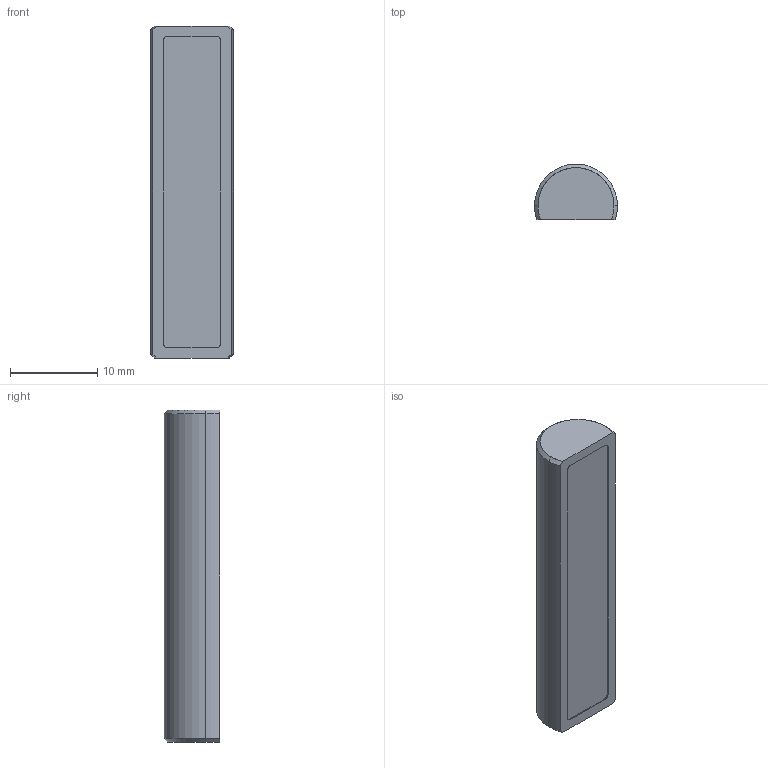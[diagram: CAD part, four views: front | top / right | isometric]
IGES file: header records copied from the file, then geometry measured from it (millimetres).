
Start section: SolidWorks IGES file using analytic representation for surfaces
Global section: file name: D:\Solid_parts\MECHeDESIGN\Bal-Tec\Catalog 105-A\Distribution\IGES\375-TCR.IGS; native system: SolidWorks 2005 by SolidWorks Corporation; preprocessor: SolidWorks 2005 by SolidWorks Corporation; author: rvillegas; date: 061205.183951; units: inch
Bounding box: 9.53 x 6.35 x 38.1 mm (x, y, z)
Surface area: 1137.9 mm2 (no closed solid volume)
Topology: 0 solids, 0 shells, 21 faces, 158 edges, 158 vertices
Faces by surface type: revolution 13, bspline 8
